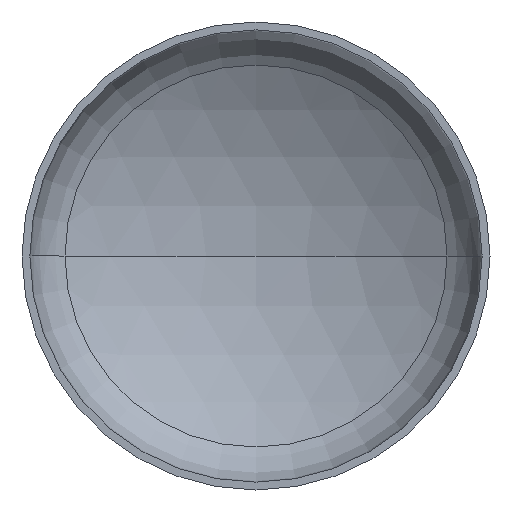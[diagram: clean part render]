
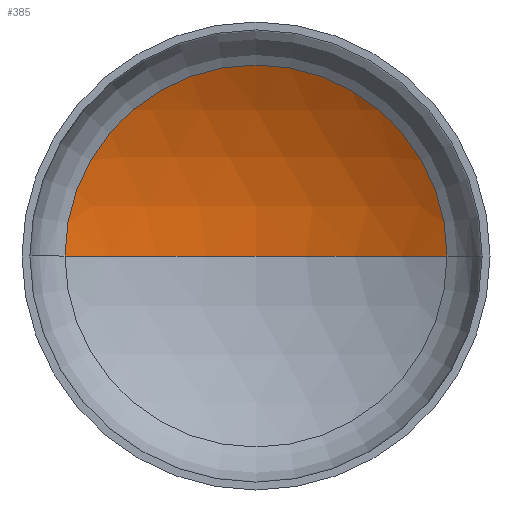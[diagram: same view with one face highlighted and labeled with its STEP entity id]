
A CAD part, front view. The second image highlights one B-rep face of the part: STEP entity #385.
In plain terms, the highlighted spherical face has radius 2560 mm.
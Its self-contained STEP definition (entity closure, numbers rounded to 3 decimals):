
#2 = AXIS2_PLACEMENT_3D ( 'NONE', #14, #163, #7 ) ;
#7 = DIRECTION ( 'NONE',  ( -1., 0., 0. ) ) ;
#14 = CARTESIAN_POINT ( 'NONE',  ( 0., -1660.383, 0. ) ) ;
#16 = AXIS2_PLACEMENT_3D ( 'NONE', #165, #300, #51 ) ;
#18 = AXIS2_PLACEMENT_3D ( 'NONE', #46, #153, #157 ) ;
#28 = AXIS2_PLACEMENT_3D ( 'NONE', #177, #169, #173 ) ;
#39 = EDGE_LOOP ( 'NONE', ( #145, #118, #120 ) ) ;
#45 = VERTEX_POINT ( 'NONE', #341 ) ;
#46 = CARTESIAN_POINT ( 'NONE',  ( 0., 541.443, 0. ) ) ;
#51 = DIRECTION ( 'NONE',  ( -1., 0., 0. ) ) ;
#115 = VERTEX_POINT ( 'NONE', #291 ) ;
#118 = ORIENTED_EDGE ( 'NONE', *, *, #367, .T. ) ;
#120 = ORIENTED_EDGE ( 'NONE', *, *, #363, .T. ) ;
#145 = ORIENTED_EDGE ( 'NONE', *, *, #352, .F. ) ;
#153 = DIRECTION ( 'NONE',  ( 0., -1., 0. ) ) ;
#157 = DIRECTION ( 'NONE',  ( 1., 0., 0. ) ) ;
#163 = DIRECTION ( 'NONE',  ( 0., 0., -1. ) ) ;
#165 = CARTESIAN_POINT ( 'NONE',  ( 0., -1660.383, 0. ) ) ;
#169 = DIRECTION ( 'NONE',  ( 0., 0., 1. ) ) ;
#173 = DIRECTION ( 'NONE',  ( 1., 0., 0. ) ) ;
#174 = CIRCLE ( 'NONE', #28, 2560. ) ;
#177 = CARTESIAN_POINT ( 'NONE',  ( 0., -1660.383, 0. ) ) ;
#195 = CARTESIAN_POINT ( 'NONE',  ( 1305.971, 541.443, 0. ) ) ;
#242 = CIRCLE ( 'NONE', #18, 1305.971 ) ;
#291 = CARTESIAN_POINT ( 'NONE',  ( 0., 899.617, 0. ) ) ;
#300 = DIRECTION ( 'NONE',  ( 0., 0., -1. ) ) ;
#341 = CARTESIAN_POINT ( 'NONE',  ( -1305.971, 541.443, 0. ) ) ;
#342 = FACE_OUTER_BOUND ( 'NONE', #39, .T. ) ;
#352 = EDGE_CURVE ( 'NONE', #115, #45, #174, .T. ) ;
#353 = CIRCLE ( 'NONE', #16, 2560. ) ;
#363 = EDGE_CURVE ( 'NONE', #398, #45, #242, .T. ) ;
#367 = EDGE_CURVE ( 'NONE', #115, #398, #353, .T. ) ;
#385 = ADVANCED_FACE ( 'NONE', ( #342 ), #390, .F. ) ;
#390 = SPHERICAL_SURFACE ( 'NONE', #2, 2560. ) ;
#398 = VERTEX_POINT ( 'NONE', #195 ) ;
